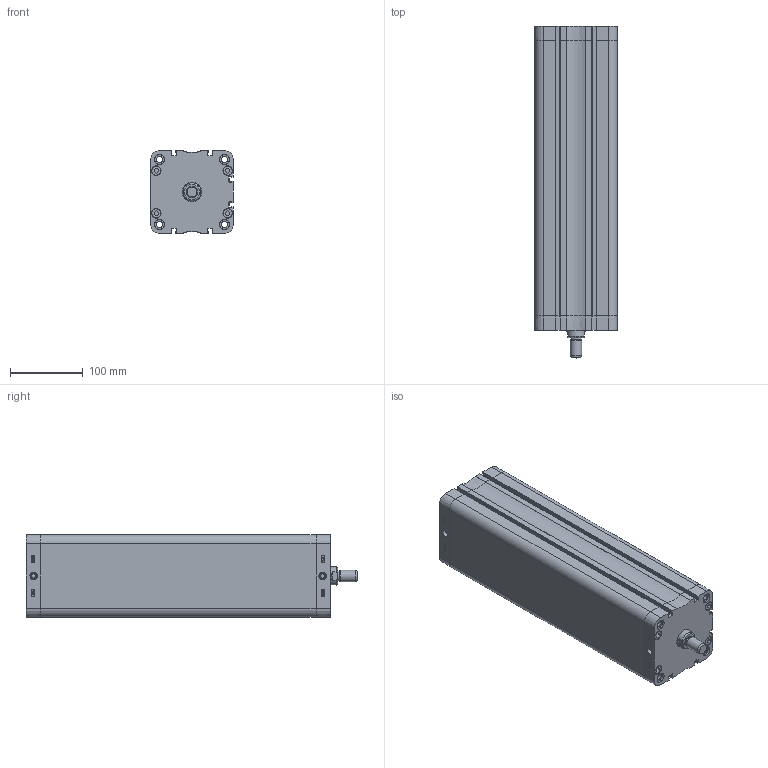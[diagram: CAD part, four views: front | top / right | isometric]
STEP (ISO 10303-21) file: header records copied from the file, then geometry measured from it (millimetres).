
FILE_DESCRIPTION((''),'2;1');
FILE_NAME('T:\Archivio Inventor\- CATALOGHI 2012\SERIE P - NUOVA\PDM\PDM100\PDM100.---.GS.M\PDM100.350.GS.M.stp','2013-02-05T11:46:17',('Administrator'),(''),'Autodesk Inventor 2012','Autodesk Inventor 2012','');
FILE_SCHEMA(('CONFIG_CONTROL_DESIGN'));
Length unit declared in the file: millimetre
Products named in the file (1): PDM100.350.GS.M
Bounding box: 113.3 x 455 x 113.3 mm (x, y, z)
Volume: 1678231.9 mm3; surface area: 512458 mm2
Topology: 1 solids, 5 shells, 908 faces, 2136 edges, 1312 vertices
Faces by surface type: plane 371, bspline 226, cylinder 148, cone 81, torus 58, sphere 24
Full cylindrical faces by diameter (mm): 6 x2, 8.3 x4, 8.376 x8, 8.566 x2, 9.976 x4, 12 x1, 12.7 x8, 13.1 x8, 13.5 x8, 14 x1, 16 x1, 25 x1, 25.5 x1, 100 x1, 103.5 x1, 103.7 x1
Entity records: 29585 total; most frequent: CARTESIAN_POINT 9717, ORIENTED_EDGE 4030, DIRECTION 3400, EDGE_CURVE 2015, VERTEX_POINT 1291, AXIS2_PLACEMENT_3D 1208, EDGE_LOOP 1088, VECTOR 984
